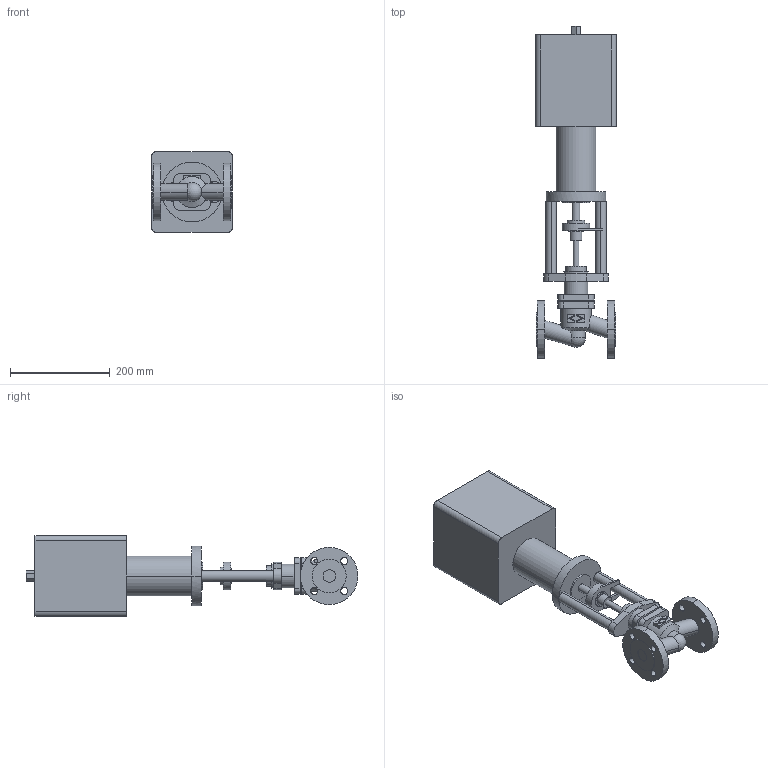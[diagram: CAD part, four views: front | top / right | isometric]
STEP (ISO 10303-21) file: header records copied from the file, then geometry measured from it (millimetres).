
FILE_DESCRIPTION( ( '' ), '1' );
FILE_NAME( 'F:/DE-SHS/TB/OR/04-Sonstiges/daten/files_3d/440-FR2.2/440-PN40-FR2_2/c000004538.stp', '2014-11-06T10:25:23', ( '' ), ( '' ), ' ', ' ', ' ' );
FILE_SCHEMA( ( 'CONFIG_CONTROL_DESIGN' ) );
Length unit declared in the file: millimetre
Products named in the file (2): 1; 2
Bounding box: 162 x 664.5 x 162 mm (x, y, z)
Volume: 6694917.9 mm3; surface area: 371336.7 mm2
Topology: 2 solids, 2 shells, 162 faces, 396 edges, 262 vertices
Faces by surface type: cylinder 82, plane 77, cone 2, sphere 1
Entity records: 5251 total; most frequent: CARTESIAN_POINT 1160, DIRECTION 885, ORIENTED_EDGE 788, EDGE_CURVE 394, AXIS2_PLACEMENT_3D 341, VERTEX_POINT 262, EDGE_LOOP 204, LINE 203
